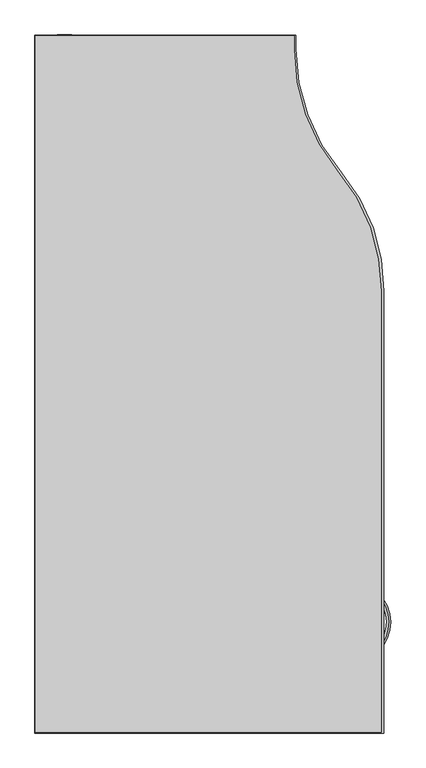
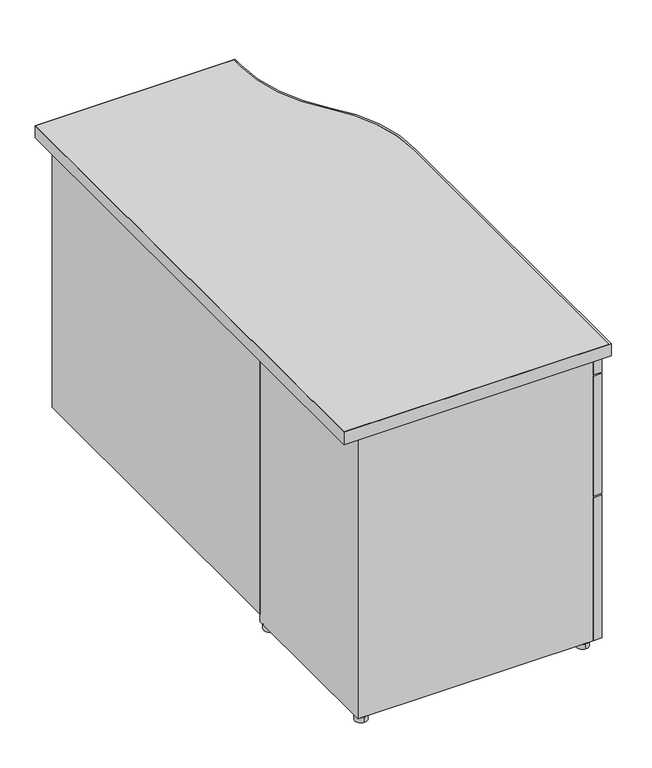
"""IFC4 building model written with IfcOpenShell, lengths in millimetres: furniture geometry, Steelcase - Kick Freestanding - Desk - Single Pedestal Transition Return - Full Modesty Panel : 18D x 48W - Left - File/File."""

from ifc_helpers import new_model, si_unit, point, frame, frame_2d, origin, origin_with_axes, place, context, project, spatial, polyline, circle_curve, ellipse_curve, trimmed, segment, composite_curve, outline, extrude, source, transform, mapped, element, save
from ifc_brep_helpers import plane_surface, cylinder_surface, revolved_surface, extruded_surface, advanced_brep


def furniture_44dbc50c(model_context):
    return source(origin(), model_context, "Body", "SolidModel", [
        advanced_brep(
        [(2760.5907209, -1621.6132511, 586.4818798), (2760.5907209, -1621.6132511, 569.2783404), (2759.9247042, -1522.4632386, 586.4818798), (2759.9247042, -1522.4632386, 569.2783404)],
        [
            (0, 1, ellipse_curve(frame((2760.5907209, -1621.6132511, 577.8801101), z_axis=(-0.7327226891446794, -0.6805273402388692, 0.0), x_axis=(0.0, 0.0, -1.0)), 8.6017697, 3.6448177)),
            (1, 0, ellipse_curve(frame((2760.5907209, -1621.6132511, 577.8801101), z_axis=(-0.7327226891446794, -0.6805273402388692, 0.0), x_axis=(0.0, 0.0, -1.0)), 8.6017697, 3.6448177)),
            (2, 3, ellipse_curve(frame((2759.9247042, -1522.4632386, 577.8801101), z_axis=(-0.7417987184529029, 0.670622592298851, 0.0), x_axis=(0.0, 0.0, -1.0)), 8.6017697, 3.6448177)),
            (3, 2, ellipse_curve(frame((2759.9247042, -1522.4632386, 577.8801101), z_axis=(-0.7417987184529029, 0.670622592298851, 0.0), x_axis=(0.0, 0.0, -1.0)), 8.6017697, 3.6448177)),
            (3, 1, circle_curve(frame((2714.8305889, -1572.3433908, 569.2783404), z_axis=(0.0, 0.0, -1.0), x_axis=(0.6805273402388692, -0.7327226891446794, 0.0)), 67.2421655)),
            (0, 2, circle_curve(frame((2714.8305889, -1572.3433908, 586.4818798), z_axis=(0.0, 0.0, 1.0), x_axis=(0.6805273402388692, -0.7327226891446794, 0.0)), 67.2421655)),
        ],
        [
            plane_surface(frame((2761.3542952, -1622.4353903, 0.0), z_axis=(-0.7327226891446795, -0.6805273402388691, 0.0), x_axis=(0.0, 0.0, 1.0))),
            plane_surface(frame((2760.6771651, -1521.6309157, 0.0), z_axis=(-0.7417987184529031, 0.6706225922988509, 0.0), x_axis=(0.0, 0.0, 1.0))),
            revolved_surface(trimmed(ellipse_curve(frame((2760.5907209, -1621.6132511, 577.8801101), z_axis=(-0.7327226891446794, -0.6805273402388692, 0.0), x_axis=(0.0, 0.0, -1.0)), 8.6017697, 3.6448177), [point((2760.5907209, -1621.6132511, 586.4818798))], [point((2760.5907209, -1621.6132511, 569.2783404))], True, "CARTESIAN"), (2714.8305889, -1572.3433908, 0.0), (0.0, 0.0, 1.0)),
            revolved_surface(trimmed(ellipse_curve(frame((2760.5907209, -1621.6132511, 577.8801101), z_axis=(-0.7327226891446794, -0.6805273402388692, 0.0), x_axis=(0.0, 0.0, -1.0)), 8.6017697, 3.6448177), [point((2760.5907209, -1621.6132511, 569.2783404))], [point((2760.5907209, -1621.6132511, 586.4818798))], True, "CARTESIAN"), (2714.8305889, -1572.3433908, 0.0), (0.0, 0.0, 1.0)),
        ],
        [
            (0, [[1, 2]]),
            (1, [[3, 4]]),
            (2, [[5, -1, 6, -4]]),
            (3, [[-6, -2, -5, -3]]),
        ],
    ),
        advanced_brep(
        [(2760.5907209, -1621.6132511, 293.5881298), (2760.5907209, -1621.6132511, 276.3845904), (2759.9247042, -1522.4632386, 293.5881298), (2759.9247042, -1522.4632386, 276.3845904)],
        [
            (0, 1, ellipse_curve(frame((2760.5907209, -1621.6132511, 284.9863601), z_axis=(-0.7327226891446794, -0.6805273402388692, 0.0), x_axis=(0.0, 0.0, -1.0)), 8.6017697, 3.6448177)),
            (1, 0, ellipse_curve(frame((2760.5907209, -1621.6132511, 284.9863601), z_axis=(-0.7327226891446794, -0.6805273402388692, 0.0), x_axis=(0.0, 0.0, -1.0)), 8.6017697, 3.6448177)),
            (2, 3, ellipse_curve(frame((2759.9247042, -1522.4632386, 284.9863601), z_axis=(-0.7417987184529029, 0.670622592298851, 0.0), x_axis=(0.0, 0.0, -1.0)), 8.6017697, 3.6448177)),
            (3, 2, ellipse_curve(frame((2759.9247042, -1522.4632386, 284.9863601), z_axis=(-0.7417987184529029, 0.670622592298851, 0.0), x_axis=(0.0, 0.0, -1.0)), 8.6017697, 3.6448177)),
            (3, 1, circle_curve(frame((2714.8305889, -1572.3433908, 276.3845904), z_axis=(0.0, 0.0, -1.0), x_axis=(0.6805273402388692, -0.7327226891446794, 0.0)), 67.2421655)),
            (0, 2, circle_curve(frame((2714.8305889, -1572.3433908, 293.5881298), z_axis=(0.0, 0.0, 1.0), x_axis=(0.6805273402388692, -0.7327226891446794, 0.0)), 67.2421655)),
        ],
        [
            plane_surface(frame((2761.3542952, -1622.4353903, 0.0), z_axis=(-0.7327226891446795, -0.6805273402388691, 0.0), x_axis=(0.0, 0.0, 1.0))),
            plane_surface(frame((2760.6771651, -1521.6309157, 0.0), z_axis=(-0.7417987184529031, 0.6706225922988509, 0.0), x_axis=(0.0, 0.0, 1.0))),
            revolved_surface(trimmed(ellipse_curve(frame((2760.5907209, -1621.6132511, 284.9863601), z_axis=(-0.7327226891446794, -0.6805273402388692, 0.0), x_axis=(0.0, 0.0, -1.0)), 8.6017697, 3.6448177), [point((2760.5907209, -1621.6132511, 293.5881298))], [point((2760.5907209, -1621.6132511, 276.3845904))], True, "CARTESIAN"), (2714.8305889, -1572.3433908, 0.0), (0.0, 0.0, 1.0)),
            revolved_surface(trimmed(ellipse_curve(frame((2760.5907209, -1621.6132511, 284.9863601), z_axis=(-0.7327226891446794, -0.6805273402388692, 0.0), x_axis=(0.0, 0.0, -1.0)), 8.6017697, 3.6448177), [point((2760.5907209, -1621.6132511, 276.3845904))], [point((2760.5907209, -1621.6132511, 293.5881298))], True, "CARTESIAN"), (2714.8305889, -1572.3433908, 0.0), (0.0, 0.0, 1.0)),
        ],
        [
            (0, [[1, 2]]),
            (1, [[3, 4]]),
            (2, [[5, -1, 6, -4]]),
            (3, [[-6, -2, -5, -3]]),
        ],
    ),
        advanced_brep(
        [(2762.8455764, -1429.0380273, 671.1566635), (2762.8455764, -1408.7180273, 671.1566635), (2759.7468248, -1429.0380273, 671.1566635), (2759.7468248, -1408.7180273, 671.1566635)],
        [
            (0, 1, circle_curve(frame((2762.8455764, -1418.8780273, 671.1566635), z_axis=(1.0, 0.0, 0.0), x_axis=(0.0, 1.0, 0.0)), 10.16)),
            (1, 0, circle_curve(frame((2762.8455764, -1418.8780273, 671.1566635), z_axis=(1.0, 0.0, 0.0), x_axis=(0.0, 1.0, 0.0)), 10.16)),
            (2, 3, circle_curve(frame((2759.7468248, -1418.8780273, 671.1566635), z_axis=(-1.0, 0.0, 0.0), x_axis=(0.0, 1.0, 0.0)), 10.16)),
            (3, 2, circle_curve(frame((2759.7468248, -1418.8780273, 671.1566635), z_axis=(-1.0, 0.0, 0.0), x_axis=(0.0, 1.0, 0.0)), 10.16)),
            (0, 2),
            (3, 1),
        ],
        [
            plane_surface(frame((2762.8455764, -1408.7180273, 671.1566635), z_axis=(1.0, 0.0, 0.0), x_axis=(0.0, 0.0, 1.0))),
            plane_surface(frame((2759.7468248, -1408.7180273, 671.1566635), z_axis=(-1.0, 0.0, 0.0), x_axis=(0.0, 0.0, -1.0))),
            cylinder_surface(frame((2759.7468248, -1418.8780273, 671.1566635), z_axis=(1.0, 0.0, 0.0), x_axis=(0.0, 1.0, 0.0)), 10.16),
        ],
        [
            (0, [[1, 2]]),
            (1, [[3, 4]]),
            (2, [[-1, 5, -4, 6]]),
            (2, [[-2, -6, -3, -5]]),
        ],
    ),
        advanced_brep(
        [(2762.8455764, -1620.2140492, 589.4466513), (2762.8455764, -1620.2140492, 566.5866513), (2759.7468248, -1620.2140492, 589.4466513), (2759.7468248, -1620.2140492, 566.5866513)],
        [
            (0, 1, ellipse_curve(frame((2762.8455764, -1620.2140492, 578.0166513), z_axis=(1.0, 0.0, 0.0), x_axis=(0.0, 0.0, -1.0)), 11.43, 8.0054005)),
            (1, 0, ellipse_curve(frame((2762.8455764, -1620.2140492, 578.0166513), z_axis=(1.0, 0.0, 0.0), x_axis=(0.0, 0.0, -1.0)), 11.43, 8.0054005)),
            (2, 3, ellipse_curve(frame((2759.7468248, -1620.2140492, 578.0166513), z_axis=(-1.0, 0.0, 0.0), x_axis=(0.0, 0.0, -1.0)), 11.43, 8.0054005)),
            (3, 2, ellipse_curve(frame((2759.7468248, -1620.2140492, 578.0166513), z_axis=(-1.0, 0.0, 0.0), x_axis=(0.0, 0.0, -1.0)), 11.43, 8.0054005)),
            (0, 2),
            (3, 1),
        ],
        [
            plane_surface(frame((2762.8455764, -1408.7180273, 671.1566635), z_axis=(1.0, 0.0, 0.0), x_axis=(0.0, 0.0, 1.0))),
            plane_surface(frame((2759.7468248, -1408.7180273, 671.1566635), z_axis=(-1.0, 0.0, 0.0), x_axis=(0.0, 0.0, -1.0))),
            extruded_surface(trimmed(ellipse_curve(frame((2755.7590248, -1620.2140492, 578.0166513), z_axis=(1.0, 0.0, 0.0), x_axis=(0.0, 0.0, -1.0)), 11.43, 8.0054005), [point((2755.7590248, -1620.2140492, 589.4466513))], [point((2755.7590248, -1620.2140492, 566.5866513))], True, "CARTESIAN"), (3.098751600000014, 0.0, 0.0), 3.098751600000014),
            extruded_surface(trimmed(ellipse_curve(frame((2755.7590248, -1620.2140492, 578.0166513), z_axis=(1.0, 0.0, 0.0), x_axis=(0.0, 0.0, -1.0)), 11.43, 8.0054005), [point((2755.7590248, -1620.2140492, 566.5866513))], [point((2755.7590248, -1620.2140492, 589.4466513))], True, "CARTESIAN"), (3.098751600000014, 0.0, 0.0), 3.098751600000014),
        ],
        [
            (0, [[1, 2]]),
            (1, [[3, 4]]),
            (2, [[-1, 5, -4, 6]]),
            (3, [[-2, -6, -3, -5]]),
        ],
    ),
        advanced_brep(
        [(2762.8455764, -1522.8852323, 589.4466513), (2762.8455764, -1522.8852323, 566.5866513), (2759.7468248, -1522.8852323, 589.4466513), (2759.7468248, -1522.8852323, 566.5866513)],
        [
            (0, 1, ellipse_curve(frame((2762.8455764, -1522.8852323, 578.0166513), z_axis=(1.0, 0.0, 0.0), x_axis=(0.0, 0.0, -1.0)), 11.43, 8.0054005)),
            (1, 0, ellipse_curve(frame((2762.8455764, -1522.8852323, 578.0166513), z_axis=(1.0, 0.0, 0.0), x_axis=(0.0, 0.0, -1.0)), 11.43, 8.0054005)),
            (2, 3, ellipse_curve(frame((2759.7468248, -1522.8852323, 578.0166513), z_axis=(-1.0, 0.0, 0.0), x_axis=(0.0, 0.0, -1.0)), 11.43, 8.0054005)),
            (3, 2, ellipse_curve(frame((2759.7468248, -1522.8852323, 578.0166513), z_axis=(-1.0, 0.0, 0.0), x_axis=(0.0, 0.0, -1.0)), 11.43, 8.0054005)),
            (0, 2),
            (3, 1),
        ],
        [
            plane_surface(frame((2762.8455764, -1408.7180273, 671.1566635), z_axis=(1.0, 0.0, 0.0), x_axis=(0.0, 0.0, 1.0))),
            plane_surface(frame((2759.7468248, -1408.7180273, 671.1566635), z_axis=(-1.0, 0.0, 0.0), x_axis=(0.0, 0.0, -1.0))),
            extruded_surface(trimmed(ellipse_curve(frame((2755.7590248, -1522.8852323, 578.0166513), z_axis=(1.0, 0.0, 0.0), x_axis=(0.0, 0.0, -1.0)), 11.43, 8.0054005), [point((2755.7590248, -1522.8852323, 589.4466513))], [point((2755.7590248, -1522.8852323, 566.5866513))], True, "CARTESIAN"), (3.098751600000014, 0.0, 0.0), 3.098751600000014),
            extruded_surface(trimmed(ellipse_curve(frame((2755.7590248, -1522.8852323, 578.0166513), z_axis=(1.0, 0.0, 0.0), x_axis=(0.0, 0.0, -1.0)), 11.43, 8.0054005), [point((2755.7590248, -1522.8852323, 566.5866513))], [point((2755.7590248, -1522.8852323, 589.4466513))], True, "CARTESIAN"), (3.098751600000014, 0.0, 0.0), 3.098751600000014),
        ],
        [
            (0, [[1, 2]]),
            (1, [[3, 4]]),
            (2, [[-1, 5, -4, 6]]),
            (3, [[-2, -6, -3, -5]]),
        ],
    ),
        advanced_brep(
        [(2762.8455764, -1618.9790775, 296.5864566), (2762.8455764, -1618.9790775, 273.7264566), (2759.7468248, -1618.9790775, 296.5864566), (2759.7468248, -1618.9790775, 273.7264566)],
        [
            (0, 1, ellipse_curve(frame((2762.8455764, -1618.9790775, 285.1564566), z_axis=(1.0, 0.0, 0.0), x_axis=(0.0, 0.0, -1.0)), 11.43, 8.0054005)),
            (1, 0, ellipse_curve(frame((2762.8455764, -1618.9790775, 285.1564566), z_axis=(1.0, 0.0, 0.0), x_axis=(0.0, 0.0, -1.0)), 11.43, 8.0054005)),
            (2, 3, ellipse_curve(frame((2759.7468248, -1618.9790775, 285.1564566), z_axis=(-1.0, 0.0, 0.0), x_axis=(0.0, 0.0, -1.0)), 11.43, 8.0054005)),
            (3, 2, ellipse_curve(frame((2759.7468248, -1618.9790775, 285.1564566), z_axis=(-1.0, 0.0, 0.0), x_axis=(0.0, 0.0, -1.0)), 11.43, 8.0054005)),
            (0, 2),
            (3, 1),
        ],
        [
            plane_surface(frame((2762.8455764, -1408.7180273, 671.1566635), z_axis=(1.0, 0.0, 0.0), x_axis=(0.0, 0.0, 1.0))),
            plane_surface(frame((2759.7468248, -1408.7180273, 671.1566635), z_axis=(-1.0, 0.0, 0.0), x_axis=(0.0, 0.0, -1.0))),
            extruded_surface(trimmed(ellipse_curve(frame((2755.7590248, -1618.9790775, 285.1564566), z_axis=(1.0, 0.0, 0.0), x_axis=(0.0, 0.0, -1.0)), 11.43, 8.0054005), [point((2755.7590248, -1618.9790775, 296.5864566))], [point((2755.7590248, -1618.9790775, 273.7264566))], True, "CARTESIAN"), (3.098751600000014, 0.0, 0.0), 3.098751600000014),
            extruded_surface(trimmed(ellipse_curve(frame((2755.7590248, -1618.9790775, 285.1564566), z_axis=(1.0, 0.0, 0.0), x_axis=(0.0, 0.0, -1.0)), 11.43, 8.0054005), [point((2755.7590248, -1618.9790775, 273.7264566))], [point((2755.7590248, -1618.9790775, 296.5864566))], True, "CARTESIAN"), (3.098751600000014, 0.0, 0.0), 3.098751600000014),
        ],
        [
            (0, [[1, 2]]),
            (1, [[3, 4]]),
            (2, [[-1, 5, -4, 6]]),
            (3, [[-2, -6, -3, -5]]),
        ],
    ),
        advanced_brep(
        [(2762.8455764, -1521.6502606, 296.5864566), (2762.8455764, -1521.6502606, 273.7264566), (2759.7468248, -1521.6502606, 296.5864566), (2759.7468248, -1521.6502606, 273.7264566)],
        [
            (0, 1, ellipse_curve(frame((2762.8455764, -1521.6502606, 285.1564566), z_axis=(1.0, 0.0, 0.0), x_axis=(0.0, 0.0, -1.0)), 11.43, 8.0054005)),
            (1, 0, ellipse_curve(frame((2762.8455764, -1521.6502606, 285.1564566), z_axis=(1.0, 0.0, 0.0), x_axis=(0.0, 0.0, -1.0)), 11.43, 8.0054005)),
            (2, 3, ellipse_curve(frame((2759.7468248, -1521.6502606, 285.1564566), z_axis=(-1.0, 0.0, 0.0), x_axis=(0.0, 0.0, -1.0)), 11.43, 8.0054005)),
            (3, 2, ellipse_curve(frame((2759.7468248, -1521.6502606, 285.1564566), z_axis=(-1.0, 0.0, 0.0), x_axis=(0.0, 0.0, -1.0)), 11.43, 8.0054005)),
            (0, 2),
            (3, 1),
        ],
        [
            plane_surface(frame((2762.8455764, -1408.7180273, 671.1566635), z_axis=(1.0, 0.0, 0.0), x_axis=(0.0, 0.0, 1.0))),
            plane_surface(frame((2759.7468248, -1408.7180273, 671.1566635), z_axis=(-1.0, 0.0, 0.0), x_axis=(0.0, 0.0, -1.0))),
            extruded_surface(trimmed(ellipse_curve(frame((2755.7590248, -1521.6502606, 285.1564566), z_axis=(1.0, 0.0, 0.0), x_axis=(0.0, 0.0, -1.0)), 11.43, 8.0054005), [point((2755.7590248, -1521.6502606, 296.5864566))], [point((2755.7590248, -1521.6502606, 273.7264566))], True, "CARTESIAN"), (3.098751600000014, 0.0, 0.0), 3.098751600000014),
            extruded_surface(trimmed(ellipse_curve(frame((2755.7590248, -1521.6502606, 285.1564566), z_axis=(1.0, 0.0, 0.0), x_axis=(0.0, 0.0, -1.0)), 11.43, 8.0054005), [point((2755.7590248, -1521.6502606, 273.7264566))], [point((2755.7590248, -1521.6502606, 296.5864566))], True, "CARTESIAN"), (3.098751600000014, 0.0, 0.0), 3.098751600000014),
        ],
        [
            (0, [[1, 2]]),
            (1, [[3, 4]]),
            (2, [[-1, 5, -4, 6]]),
            (3, [[-2, -6, -3, -5]]),
        ],
    ),
        extrude(outline(polyline([(2759.7468248, -1367.7776054), (2759.7468248, -1752.7145982), (2739.8077764, -1752.7145982), (2739.8077764, -1367.7776054), (2759.7468248, -1367.7776054)])), frame((0.0, 0.0, 360.6545895), z_axis=(0.0, 0.0, 1.0), x_axis=(1.0, 0.0, 0.0)), (0.0, 0.0, 1.0), 288.9250242),
        extrude(outline(polyline([(2759.7468248, -1367.7776054), (2759.7468248, -1752.7145982), (2739.8077764, -1752.7145982), (2739.8077764, -1367.7776054), (2759.7468248, -1367.7776054)])), frame((0.0, 0.0, 12.7), z_axis=(0.0, 0.0, 1.0), x_axis=(1.0, 0.0, 0.0)), (0.0, 0.0, 1.0), 344.7796016),
        extrude(outline(polyline([(2759.7468248, -1367.7776054), (2759.7468248, -1752.7145982), (2739.8077764, -1752.7145982), (2739.8077764, -1367.7776054), (2759.7468248, -1367.7776054)])), frame((0.0, 0.0, 652.7545653), z_axis=(0.0, 0.0, 1.0), x_axis=(1.0, 0.0, 0.0)), (0.0, 0.0, 1.0), 40.6400339),
        extrude(outline(composite_curve([segment(trimmed(circle_curve(frame_2d((2217.7074425, -1740.1382652)), 13.97), [point((2217.7074425, -1754.1082652))], [point((2217.7074425, -1726.1682652))], False, "CARTESIAN"), True, "CONTINUOUS"), segment(trimmed(circle_curve(frame_2d((2217.7074425, -1740.1382652)), 13.97), [point((2217.7074425, -1726.1682652))], [point((2217.7074425, -1754.1082652))], False, "CARTESIAN"), True, "CONTINUOUS")], self_intersect=False)), origin_with_axes(), (0.0, 0.0, 1.0), 12.446),
        extrude(outline(composite_curve([segment(trimmed(circle_curve(frame_2d((2722.6594425, -1740.1382652)), 13.97), [point((2722.6594425, -1754.1082652))], [point((2722.6594425, -1726.1682652))], False, "CARTESIAN"), True, "CONTINUOUS"), segment(trimmed(circle_curve(frame_2d((2722.6594425, -1740.1382652)), 13.97), [point((2722.6594425, -1726.1682652))], [point((2722.6594425, -1754.1082652))], False, "CARTESIAN"), True, "CONTINUOUS")], self_intersect=False)), origin_with_axes(), (0.0, 0.0, 1.0), 12.446),
        extrude(outline(composite_curve([segment(trimmed(circle_curve(frame_2d((2217.7074425, -1380.4776054)), 13.97), [point((2217.7074425, -1394.4476054))], [point((2217.7074425, -1366.5076054))], False, "CARTESIAN"), True, "CONTINUOUS"), segment(trimmed(circle_curve(frame_2d((2217.7074425, -1380.4776054)), 13.97), [point((2217.7074425, -1366.5076054))], [point((2217.7074425, -1394.4476054))], False, "CARTESIAN"), True, "CONTINUOUS")], self_intersect=False)), origin_with_axes(), (0.0, 0.0, 1.0), 12.446),
        extrude(outline(composite_curve([segment(trimmed(circle_curve(frame_2d((2723.4604252, -1380.4776054)), 12.7), [point((2723.4604252, -1393.1776054))], [point((2723.4604252, -1367.7776054))], False, "CARTESIAN"), True, "CONTINUOUS"), segment(trimmed(circle_curve(frame_2d((2723.4604252, -1380.4776054)), 12.7), [point((2723.4604252, -1367.7776054))], [point((2723.4604252, -1393.1776054))], False, "CARTESIAN"), True, "CONTINUOUS")], self_intersect=False)), origin_with_axes(), (0.0, 0.0, 1.0), 12.446),
        extrude(outline(polyline([(2203.2328248, -1367.7776054), (2739.8077764, -1367.7776054), (2739.8077764, -1752.7145982), (2203.2328248, -1752.7145982), (2203.2328248, -1367.7776054)]), holes=[polyline([(2228.6328241, -1387.6149846), (2228.6328241, -1732.8771996), (2719.2338142, -1732.8771996), (2719.2338142, -1387.6149846), (2228.6328241, -1387.6149846)])]), frame((0.0, 0.0, 12.446), z_axis=(0.0, 0.0, 1.0), x_axis=(1.0, 0.0, 0.0)), (0.0, 0.0, 1.0), 682.498),
        extrude(outline(composite_curve([segment(polyline([(2616.8176592, -547.8051152), (2616.8176592, -572.1320079)]), True, "CONTINUOUS"), segment(trimmed(circle_curve(frame_2d((2941.6463505, -574.5942763)), 324.8380233), [point((2616.8176592, -572.1320079))], [point((2692.5587903, -783.1011797))], True, "CARTESIAN"), True, "CONTINUOUS"), segment(trimmed(circle_curve(frame_2d((2440.4841513, -994.1085152)), 328.7335079), [point((2692.5587903, -783.1011797))], [point((2769.2176592, -994.1085152))], False, "CARTESIAN"), True, "CONTINUOUS"), segment(polyline([(2769.2176592, -994.1085152), (2769.2176592, -1764.2619332), (2164.8500425, -1764.2619332), (2164.8500425, -547.8051152), (2616.8176592, -547.8051152)]), True, "CONTINUOUS")], self_intersect=False)), frame((0.0, 0.0, 694.944), z_axis=(0.0, 0.0, 1.0), x_axis=(1.0, 0.0, 0.0)), (0.0, 0.0, 1.0), 28.956),
        extrude(outline(composite_curve([segment(polyline([(2619.7894255, -546.8145152), (2619.7894255, -571.0836731)]), True, "CONTINUOUS"), segment(trimmed(circle_curve(frame_2d((2951.3460478, -571.0836731)), 331.5566223), [point((2619.7894255, -571.0836731))], [point((2699.261298, -786.4509703))], True, "CARTESIAN"), True, "CONTINUOUS"), segment(trimmed(circle_curve(frame_2d((2463.6949436, -987.7058619)), 309.8306613), [point((2699.261298, -786.4509703))], [point((2773.4594425, -994.1085152))], False, "CARTESIAN"), True, "CONTINUOUS"), segment(polyline([(2773.4594425, -994.1085152), (2773.4594425, -1766.0145152), (2163.8594425, -1766.0145152), (2163.8594425, -546.8145152), (2619.7894255, -546.8145152)]), True, "CONTINUOUS")], self_intersect=False), holes=[composite_curve([segment(polyline([(2616.8176592, -547.8051152), (2164.8500425, -547.8051152), (2164.8500425, -1764.2619332), (2769.2176592, -1764.2619332), (2769.2176592, -994.1085152)]), True, "CONTINUOUS"), segment(trimmed(circle_curve(frame_2d((2440.4841513, -994.1085152)), 328.7335079), [point((2769.2176592, -994.1085152))], [point((2692.5587903, -783.1011797))], True, "CARTESIAN"), True, "CONTINUOUS"), segment(trimmed(circle_curve(frame_2d((2941.6463505, -574.5942763)), 324.8380233), [point((2692.5587903, -783.1011797))], [point((2616.8176592, -572.1320079))], False, "CARTESIAN"), True, "CONTINUOUS"), segment(polyline([(2616.8176592, -572.1320079), (2616.8176592, -547.8051152)]), True, "CONTINUOUS")], self_intersect=False)]), frame((0.0, 0.0, 694.944), z_axis=(0.0, 0.0, 1.0), x_axis=(1.0, 0.0, 0.0)), (0.0, 0.0, 1.0), 28.956),
        extrude(outline(polyline([(2228.6328241, -546.0525152), (2228.6328241, -1367.7776054), (2203.2328248, -1367.7776054), (2203.2328248, -546.0525152), (2228.6328241, -546.0525152)])), frame((0.0, 0.0, 31.242), z_axis=(0.0, 0.0, 1.0), x_axis=(1.0, 0.0, 0.0)), (0.0, 0.0, 1.0), 663.702),
    ])


if __name__ == "__main__":
    model = new_model("IFC4")
    model_context = context("Model", 3, world=origin())
    ifc_project = project(units=[si_unit("LENGTHUNIT", "METRE", prefix="MILLI")], contexts=[model_context])
    site = spatial("IfcSite", under=ifc_project)
    building = spatial("IfcBuilding", under=site)
    placement = place(None, origin())
    furniture_shape = furniture_44dbc50c(model_context)
    element("IfcFurniture", 1, ObjectType="Steelcase - Kick Freestanding - Desk - Single Pedestal Transition Return - Full Modesty Panel : 18D x 48W - Left - File/File", at=placement, inside=building, context=model_context, shape_type="MappedRepresentation", body=[
        mapped(furniture_shape, transform((0.0, 0.0, 0.0), x_axis=(1.0, 0.0, 0.0), y_axis=(0.0, 1.0, 0.0), z_axis=(0.0, 0.0, 1.0))),
    ])
    save(model, "model.ifc")
